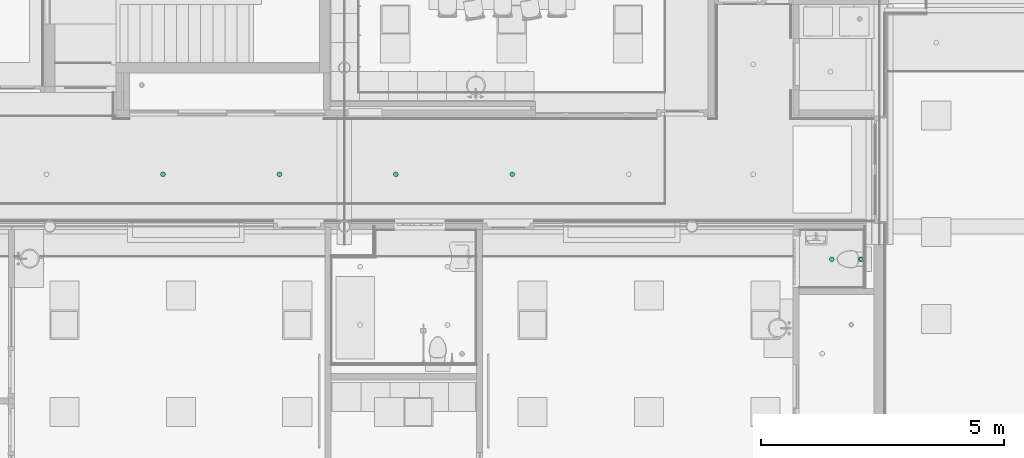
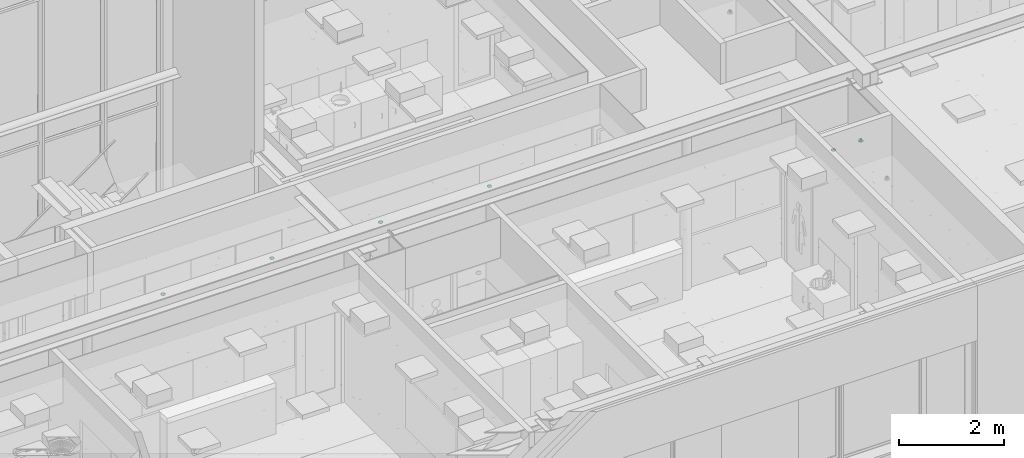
# One storey, part 207 of 347: 6 flow terminals.
"""IFC2X3 building model written with IfcOpenShell, lengths in millimetres."""

from ifc_helpers import new_model, entity, si_unit, converted_unit, derived_unit, money_unit, direction, frame, origin_with_axes, place, context, subcontext, project, spatial, open_shell, faceted_brep, surface_model, source, transform, mapped, type_object, type_shapes, element, save


model = new_model("IFC2X3")

# Units and contexts
model_context = context("Model", 3, precision=0.01, world=origin_with_axes(), true_north=direction((0.0, 1.0)))
plan_context = context("Plan", 3, precision=0.01, world=origin_with_axes(), true_north=direction((0.0, 1.0)))
body_context = subcontext(model_context, "Body", "Model", "MODEL_VIEW")
ifc_project = project(units=[si_unit("LENGTHUNIT", "METRE", prefix="MILLI"), si_unit("AREAUNIT", "SQUARE_METRE"), si_unit("VOLUMEUNIT", "CUBIC_METRE"), converted_unit("PLANEANGLEUNIT", "DEGREE", entity("IfcPlaneAngleMeasure", 0.0174532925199), si_unit("PLANEANGLEUNIT", "RADIAN"), dimensions=[0, 0, 0, 0, 0, 0, 0]), money_unit("EUR"), converted_unit("TIMEUNIT", "Year", entity("IfcTimeMeasure", 31556926.0), si_unit("TIMEUNIT", "SECOND"), dimensions=[0, 0, 1, 0, 0, 0, 0]), si_unit("MASSUNIT", "GRAM", prefix="KILO"), si_unit("THERMODYNAMICTEMPERATUREUNIT", "DEGREE_CELSIUS"), si_unit("LUMINOUSINTENSITYUNIT", "LUMEN"), si_unit("ENERGYUNIT", "JOULE", prefix="MEGA"), derived_unit("THERMALCONDUCTANCEUNIT", [(si_unit("POWERUNIT", "WATT"), 1), (si_unit("LENGTHUNIT", "METRE"), -1), (si_unit("THERMODYNAMICTEMPERATUREUNIT", "KELVIN"), -1)]), derived_unit("SPECIFICHEATCAPACITYUNIT", [(si_unit("ENERGYUNIT", "JOULE"), 1), (si_unit("MASSUNIT", "GRAM", prefix="KILO"), -1), (si_unit("THERMODYNAMICTEMPERATUREUNIT", "KELVIN"), -1)]), derived_unit("MASSDENSITYUNIT", [(si_unit("MASSUNIT", "GRAM", prefix="KILO"), 1), (si_unit("VOLUMEUNIT", "CUBIC_METRE"), -1)])], contexts=[model_context, plan_context])

# Site, building, storey
site_placement = place(None, origin_with_axes())
site = spatial("IfcSite", under=ifc_project, at=site_placement, Name="Site", CompositionType="ELEMENT")
building_placement = place(site_placement, origin_with_axes())
building = spatial("IfcBuilding", under=site, at=building_placement, Name="Naam gebouw", CompositionType="ELEMENT")
storey_placement = place(building_placement, origin_with_axes())
storey = spatial("IfcBuildingStorey", under=building, at=storey_placement, Name="begane grond", CompositionType="ELEMENT", Elevation=0.0)

# Flow terminals
lamp_type = type_object("IfcLampType", Name="Spot plafond 01 25", PredefinedType="NOTDEFINED")
shared_shape_1 = source(origin_with_axes(), body_context, "Body", "SurfaceModel", [
    faceted_brep([(50.0, 0.0, -10.0), (46.1939766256, 19.1341716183, -10.0), (46.1939766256, 19.1341716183, 0.0), (50.0, 0.0, 0.0), (46.1939766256, -19.1341716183, -10.0), (35.3553390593, -35.3553390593, -10.0), (19.1341716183, -46.1939766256, -10.0), (0.0, -50.0, -10.0), (-19.1341716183, -46.1939766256, -10.0), (-35.3553390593, -35.3553390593, -10.0), (-46.1939766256, -19.1341716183, -10.0), (-50.0, 0.0, -10.0), (-46.1939766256, 19.1341716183, -10.0), (-35.3553390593, 35.3553390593, -10.0), (-19.1341716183, 46.1939766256, -10.0), (0.0, 50.0, -10.0), (19.1341716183, 46.1939766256, -10.0), (35.3553390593, 35.3553390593, -10.0), (40.0, 0.0, -10.0), (36.9551813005, 15.3073372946, -10.0), (28.2842712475, 28.2842712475, -10.0), (15.3073372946, 36.9551813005, -10.0), (0.0, 40.0, -10.0), (-15.3073372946, 36.9551813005, -10.0), (-28.2842712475, 28.2842712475, -10.0), (-36.9551813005, 15.3073372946, -10.0), (-40.0, 0.0, -10.0), (-36.9551813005, -15.3073372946, -10.0), (-28.2842712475, -28.2842712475, -10.0), (-15.3073372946, -36.9551813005, -10.0), (0.0, -40.0, -10.0), (15.3073372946, -36.9551813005, -10.0), (28.2842712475, -28.2842712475, -10.0), (36.9551813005, -15.3073372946, -10.0), (35.3553390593, 35.3553390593, 0.0), (19.1341716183, 46.1939766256, 0.0), (0.0, 50.0, 0.0), (-19.1341716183, 46.1939766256, 0.0), (-35.3553390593, 35.3553390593, 0.0), (-46.1939766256, 19.1341716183, 0.0), (-50.0, 0.0, 0.0), (-46.1939766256, -19.1341716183, 0.0), (-35.3553390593, -35.3553390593, 0.0), (-19.1341716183, -46.1939766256, 0.0), (0.0, -50.0, 0.0), (19.1341716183, -46.1939766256, 0.0), (35.3553390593, -35.3553390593, 0.0), (46.1939766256, -19.1341716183, 0.0), (40.0, 0.0, 0.0), (36.9551813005, -15.3073372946, 0.0), (28.2842712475, -28.2842712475, 0.0), (15.3073372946, -36.9551813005, 0.0), (0.0, -40.0, 0.0), (-15.3073372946, -36.9551813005, 0.0), (-28.2842712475, -28.2842712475, 0.0), (-36.9551813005, -15.3073372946, 0.0), (-40.0, 0.0, 0.0), (-36.9551813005, 15.3073372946, 0.0), (-28.2842712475, 28.2842712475, 0.0), (-15.3073372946, 36.9551813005, 0.0), (0.0, 40.0, 0.0), (15.3073372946, 36.9551813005, 0.0), (28.2842712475, 28.2842712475, 0.0), (36.9551813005, 15.3073372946, 0.0)], [[[0, 1, 2, 3]], [[0, 4, 5, 6, 7, 8, 9, 10, 11, 12, 13, 14, 15, 16, 17, 1], [18, 19, 20, 21, 22, 23, 24, 25, 26, 27, 28, 29, 30, 31, 32, 33]], [[1, 17, 34, 2]], [[3, 2, 34, 35, 36, 37, 38, 39, 40, 41, 42, 43, 44, 45, 46, 47], [48, 49, 50, 51, 52, 53, 54, 55, 56, 57, 58, 59, 60, 61, 62, 63]], [[4, 0, 3, 47]], [[5, 4, 47, 46]], [[6, 5, 46, 45]], [[7, 6, 45, 44]], [[8, 7, 44, 43]], [[9, 8, 43, 42]], [[10, 9, 42, 41]], [[11, 10, 41, 40]], [[12, 11, 40, 39]], [[13, 12, 39, 38]], [[14, 13, 38, 37]], [[15, 14, 37, 36]], [[16, 15, 36, 35]], [[17, 16, 35, 34]], [[19, 18, 48, 63]], [[20, 19, 63, 62]], [[21, 20, 62, 61]], [[22, 21, 61, 60]], [[23, 22, 60, 59]], [[24, 23, 59, 58]], [[25, 24, 58, 57]], [[26, 25, 57, 56]], [[27, 26, 56, 55]], [[28, 27, 55, 54]], [[29, 28, 54, 53]], [[30, 29, 53, 52]], [[31, 30, 52, 51]], [[32, 31, 51, 50]], [[33, 32, 50, 49]], [[18, 33, 49, 48]]]),
    surface_model("IfcShellBasedSurfaceModel", [(40.0, 0.0, -8.9), (36.9551813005, -15.3073372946, -8.9), (28.2842712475, -28.2842712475, -8.9), (15.3073372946, -36.9551813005, -8.9), (0.0, -40.0, -8.9), (-15.3073372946, -36.9551813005, -8.9), (-28.2842712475, -28.2842712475, -8.9), (-36.9551813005, -15.3073372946, -8.9), (-40.0, 0.0, -8.9), (-36.9551813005, 15.3073372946, -8.9), (-28.2842712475, 28.2842712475, -8.9), (-15.3073372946, 36.9551813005, -8.9), (0.0, 40.0, -8.9), (15.3073372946, 36.9551813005, -8.9), (28.2842712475, 28.2842712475, -8.9), (36.9551813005, 15.3073372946, -8.9)], [open_shell([[[0, 1, 2, 3, 4, 5, 6, 7, 8, 9, 10, 11, 12, 13, 14, 15]]])]),
])
type_shapes(lamp_type, [shared_shape_1])
for number, where, z_axis, x_axis, name in (
    (1, (20837.5, 13200.0, 3000.0), (0.0, 0.0, 1.0), (1.0, 0.0, 0.0), "63_Lamp-x"),
    (2, (23237.5, 13200.0, 3000.0), (0.0, 0.0, 1.0), (1.0, 0.0, 0.0), "63_Lamp-x"),
    (3, (25637.5, 13200.0, 3000.0), (0.0, 0.0, 1.0), (1.0, 0.0, 0.0), "63_Lamp-x"),
    (4, (28037.5, 13200.0, 3000.0), (0.0, 0.0, 1.0), (1.0, 0.0, 0.0), "63_Lamp-x"),
    (5, (34622.5, 11450.0, 2600.0), (0.0, 0.0, 1.0), (1.0, 0.0, 0.0), "63_Lamp-x"),
):
    element("IfcFlowTerminal", number, at=place(storey_placement, frame(where, z_axis=z_axis, x_axis=x_axis)), inside=storey, type_object=lamp_type, Name=name, ObjectType="Lamp", context=body_context, shape_type="MappedRepresentation", body=[
        mapped(shared_shape_1, transform((0.0, 0.0, 0.0))),
    ])
air_terminal_type = type_object("IfcAirTerminalType", Name="Rooster plafond rond 25", PredefinedType="GRILLE")
shared_shape_2 = source(origin_with_axes(), body_context, "Body", "SurfaceModel", [
    faceted_brep([(51.0, 0.0, -5.0), (49.2622171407, 13.1997713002, -5.0), (49.2622171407, 13.1997713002, 0.0), (51.0, 0.0, 0.0), (49.2622171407, -13.1997713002, -5.0), (44.167295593, -25.5, -5.0), (36.0624458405, -36.0624458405, -5.0), (25.5, -44.167295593, -5.0), (13.1997713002, -49.2622171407, -5.0), (0.0, -51.0, -5.0), (-13.1997713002, -49.2622171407, -5.0), (-25.5, -44.167295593, -5.0), (-36.0624458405, -36.0624458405, -5.0), (-44.167295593, -25.5, -5.0), (-49.2622171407, -13.1997713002, -5.0), (-51.0, 0.0, -5.0), (-49.2622171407, 13.1997713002, -5.0), (-44.167295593, 25.5, -5.0), (-36.0624458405, 36.0624458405, -5.0), (-25.5, 44.167295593, -5.0), (-13.1997713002, 49.2622171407, -5.0), (0.0, 51.0, -5.0), (13.1997713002, 49.2622171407, -5.0), (25.5, 44.167295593, -5.0), (36.0624458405, 36.0624458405, -5.0), (44.167295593, 25.5, -5.0), (26.0, 0.0, -5.0), (25.1140714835, 6.72929517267, -5.0), (22.5166604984, 13.0, -5.0), (18.3847763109, 18.3847763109, -5.0), (13.0, 22.5166604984, -5.0), (6.72929517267, 25.1140714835, -5.0), (0.0, 26.0, -5.0), (-6.72929517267, 25.1140714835, -5.0), (-13.0, 22.5166604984, -5.0), (-18.3847763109, 18.3847763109, -5.0), (-22.5166604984, 13.0, -5.0), (-25.1140714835, 6.72929517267, -5.0), (-26.0, 0.0, -5.0), (-25.1140714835, -6.72929517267, -5.0), (-22.5166604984, -13.0, -5.0), (-18.3847763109, -18.3847763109, -5.0), (-13.0, -22.5166604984, -5.0), (-6.72929517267, -25.1140714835, -5.0), (0.0, -26.0, -5.0), (6.72929517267, -25.1140714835, -5.0), (13.0, -22.5166604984, -5.0), (18.3847763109, -18.3847763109, -5.0), (22.5166604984, -13.0, -5.0), (25.1140714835, -6.72929517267, -5.0), (44.167295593, 25.5, 0.0), (36.0624458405, 36.0624458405, 0.0), (25.5, 44.167295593, 0.0), (13.1997713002, 49.2622171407, 0.0), (0.0, 51.0, 0.0), (-13.1997713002, 49.2622171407, 0.0), (-25.5, 44.167295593, 0.0), (-36.0624458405, 36.0624458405, 0.0), (-44.167295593, 25.5, 0.0), (-49.2622171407, 13.1997713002, 0.0), (-51.0, 0.0, 0.0), (-49.2622171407, -13.1997713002, 0.0), (-44.167295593, -25.5, 0.0), (-36.0624458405, -36.0624458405, 0.0), (-25.5, -44.167295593, 0.0), (-13.1997713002, -49.2622171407, 0.0), (0.0, -51.0, 0.0), (13.1997713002, -49.2622171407, 0.0), (25.5, -44.167295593, 0.0), (36.0624458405, -36.0624458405, 0.0), (44.167295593, -25.5, 0.0), (49.2622171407, -13.1997713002, 0.0), (26.0, 0.0, 0.0), (25.1140714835, -6.72929517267, 0.0), (22.5166604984, -13.0, 0.0), (18.3847763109, -18.3847763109, 0.0), (13.0, -22.5166604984, 0.0), (6.72929517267, -25.1140714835, 0.0), (0.0, -26.0, 0.0), (-6.72929517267, -25.1140714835, 0.0), (-13.0, -22.5166604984, 0.0), (-18.3847763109, -18.3847763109, 0.0), (-22.5166604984, -13.0, 0.0), (-25.1140714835, -6.72929517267, 0.0), (-26.0, 0.0, 0.0), (-25.1140714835, 6.72929517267, 0.0), (-22.5166604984, 13.0, 0.0), (-18.3847763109, 18.3847763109, 0.0), (-13.0, 22.5166604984, 0.0), (-6.72929517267, 25.1140714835, 0.0), (0.0, 26.0, 0.0), (6.72929517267, 25.1140714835, 0.0), (13.0, 22.5166604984, 0.0), (18.3847763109, 18.3847763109, 0.0), (22.5166604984, 13.0, 0.0), (25.1140714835, 6.72929517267, 0.0)], [[[0, 1, 2, 3]], [[0, 4, 5, 6, 7, 8, 9, 10, 11, 12, 13, 14, 15, 16, 17, 18, 19, 20, 21, 22, 23, 24, 25, 1], [26, 27, 28, 29, 30, 31, 32, 33, 34, 35, 36, 37, 38, 39, 40, 41, 42, 43, 44, 45, 46, 47, 48, 49]], [[1, 25, 50, 2]], [[3, 2, 50, 51, 52, 53, 54, 55, 56, 57, 58, 59, 60, 61, 62, 63, 64, 65, 66, 67, 68, 69, 70, 71], [72, 73, 74, 75, 76, 77, 78, 79, 80, 81, 82, 83, 84, 85, 86, 87, 88, 89, 90, 91, 92, 93, 94, 95]], [[4, 0, 3, 71]], [[5, 4, 71, 70]], [[6, 5, 70, 69]], [[7, 6, 69, 68]], [[8, 7, 68, 67]], [[9, 8, 67, 66]], [[10, 9, 66, 65]], [[11, 10, 65, 64]], [[12, 11, 64, 63]], [[13, 12, 63, 62]], [[14, 13, 62, 61]], [[15, 14, 61, 60]], [[16, 15, 60, 59]], [[17, 16, 59, 58]], [[18, 17, 58, 57]], [[19, 18, 57, 56]], [[20, 19, 56, 55]], [[21, 20, 55, 54]], [[22, 21, 54, 53]], [[23, 22, 53, 52]], [[24, 23, 52, 51]], [[25, 24, 51, 50]], [[27, 26, 72, 95]], [[28, 27, 95, 94]], [[29, 28, 94, 93]], [[30, 29, 93, 92]], [[31, 30, 92, 91]], [[32, 31, 91, 90]], [[33, 32, 90, 89]], [[34, 33, 89, 88]], [[35, 34, 88, 87]], [[36, 35, 87, 86]], [[37, 36, 86, 85]], [[38, 37, 85, 84]], [[39, 38, 84, 83]], [[40, 39, 83, 82]], [[41, 40, 82, 81]], [[42, 41, 81, 80]], [[43, 42, 80, 79]], [[44, 43, 79, 78]], [[45, 44, 78, 77]], [[46, 45, 77, 76]], [[47, 46, 76, 75]], [[48, 47, 75, 74]], [[49, 48, 74, 73]], [[26, 49, 73, 72]]]),
    surface_model("IfcShellBasedSurfaceModel", [(0.0, -26.0, 0.0), (6.72929517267, -25.1140714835, 0.0), (6.72929517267, -25.1140714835, 50.0), (0.0, -26.0, 50.0), (13.0, -22.5166604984, 0.0), (13.0, -22.5166604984, 50.0), (-6.72929517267, -25.1140714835, 0.0), (-6.72929517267, -25.1140714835, 50.0), (18.3847763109, -18.3847763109, 0.0), (18.3847763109, -18.3847763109, 50.0), (-13.0, -22.5166604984, 0.0), (-13.0, -22.5166604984, 50.0), (22.5166604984, -13.0, 0.0), (22.5166604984, -13.0, 50.0), (-18.3847763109, -18.3847763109, 0.0), (-18.3847763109, -18.3847763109, 50.0), (25.1140714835, -6.72929517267, 0.0), (25.1140714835, -6.72929517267, 50.0), (-22.5166604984, -13.0, 0.0), (-22.5166604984, -13.0, 50.0), (26.0, 0.0, 0.0), (26.0, 0.0, 50.0), (-25.1140714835, -6.72929517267, 0.0), (-25.1140714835, -6.72929517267, 50.0), (25.1140714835, 6.72929517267, 0.0), (25.1140714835, 6.72929517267, 50.0), (-26.0, 0.0, 0.0), (-26.0, 0.0, 50.0), (22.5166604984, 13.0, 0.0), (22.5166604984, 13.0, 50.0), (-25.1140714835, 6.72929517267, 0.0), (-25.1140714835, 6.72929517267, 50.0), (18.3847763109, 18.3847763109, 0.0), (18.3847763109, 18.3847763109, 50.0), (-22.5166604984, 13.0, 0.0), (-22.5166604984, 13.0, 50.0), (13.0, 22.5166604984, 0.0), (13.0, 22.5166604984, 50.0), (-18.3847763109, 18.3847763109, 0.0), (-18.3847763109, 18.3847763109, 50.0), (6.72929517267, 25.1140714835, 0.0), (6.72929517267, 25.1140714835, 50.0), (-13.0, 22.5166604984, 0.0), (-13.0, 22.5166604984, 50.0), (0.0, 26.0, 0.0), (0.0, 26.0, 50.0), (-6.72929517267, 25.1140714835, 0.0), (-6.72929517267, 25.1140714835, 50.0)], [open_shell([[[0, 1, 2, 3]], [[1, 4, 5, 2]], [[6, 0, 3, 7]], [[4, 8, 9, 5]], [[10, 6, 7, 11]], [[8, 12, 13, 9]], [[14, 10, 11, 15]], [[12, 16, 17, 13]], [[18, 14, 15, 19]], [[16, 20, 21, 17]], [[22, 18, 19, 23]], [[20, 24, 25, 21]], [[26, 22, 23, 27]], [[24, 28, 29, 25]], [[30, 26, 27, 31]], [[28, 32, 33, 29]], [[34, 30, 31, 35]], [[32, 36, 37, 33]], [[38, 34, 35, 39]], [[36, 40, 41, 37]], [[42, 38, 39, 43]], [[40, 44, 45, 41]], [[46, 42, 43, 47]], [[44, 46, 47, 45]]])]),
])
type_shapes(air_terminal_type, [shared_shape_2])
flow_terminal_placement = place(storey_placement, frame((35222.5, 11450.0, 2600.0), z_axis=(0.0, 0.0, 1.0), x_axis=(1.0, 0.0, 0.0)))
element("IfcFlowTerminal", 6, at=flow_terminal_placement, inside=storey, type_object=air_terminal_type, Name="57_78 garderobe", context=body_context, shape_type="MappedRepresentation", body=[
    mapped(shared_shape_2, transform((0.0, 0.0, 0.0))),
])

save(model, "model.ifc")
